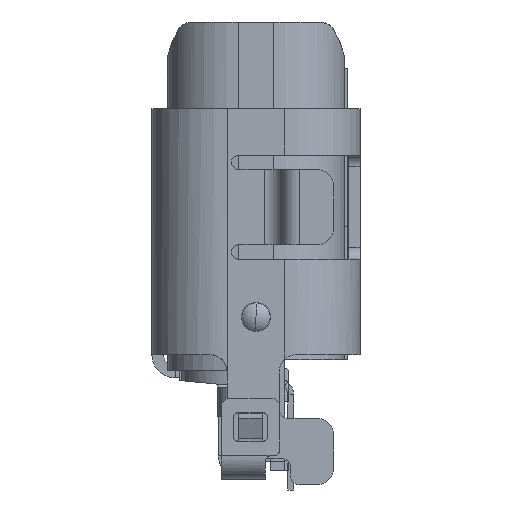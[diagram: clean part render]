
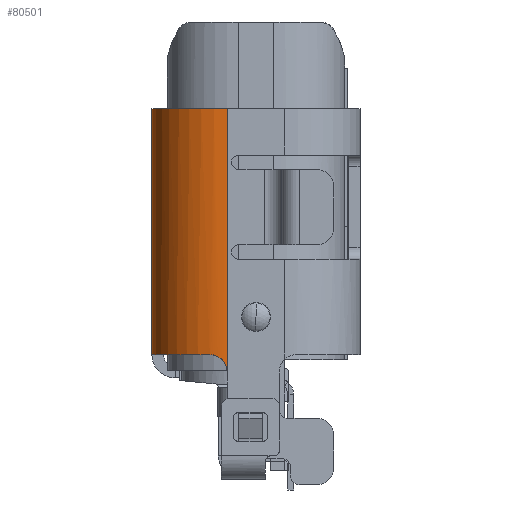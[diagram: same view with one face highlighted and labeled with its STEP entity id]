
A CAD part, left-side view. The second image highlights one B-rep face of the part: STEP entity #80501.
In plain terms, the highlighted cylindrical face has radius 1.3 mm (diameter 2.6 mm), a partial arc.
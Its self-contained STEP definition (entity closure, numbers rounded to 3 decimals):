
#2627 = AXIS2_PLACEMENT_3D ( 'NONE', #13620, #5932, #48980 ) ;
#5932 = DIRECTION ( 'NONE',  ( 0., 0., 1. ) ) ;
#13620 = CARTESIAN_POINT ( 'NONE',  ( -3.35, 0.5, -8.25 ) ) ;
#15548 = ORIENTED_EDGE ( 'NONE', *, *, #98056, .F. ) ;
#16864 = LINE ( 'NONE', #116474, #19434 ) ;
#17221 = CARTESIAN_POINT ( 'NONE',  ( -4.65, 0.5, -4. ) ) ;
#18201 = FACE_OUTER_BOUND ( 'NONE', #74409, .T. ) ;
#18887 = CARTESIAN_POINT ( 'NONE',  ( -4.615, 0.8, -8.25 ) ) ;
#19216 = EDGE_CURVE ( 'NONE', #42712, #53247, #108586, .T. ) ;
#19434 = VECTOR ( 'NONE', #70466, 1000. ) ;
#21456 = CIRCLE ( 'NONE', #2627, 1.3 ) ;
#25782 = VERTEX_POINT ( 'NONE', #72010 ) ;
#26510 = CARTESIAN_POINT ( 'NONE',  ( -3.35, 0.5, 0. ) ) ;
#27643 = DIRECTION ( 'NONE',  ( 1., 0., 0. ) ) ;
#27749 = CARTESIAN_POINT ( 'NONE',  ( -4.647, 0.585, -8.34 ) ) ;
#34300 = CARTESIAN_POINT ( 'NONE',  ( -4.648, 0.568, -8.359 ) ) ;
#37388 = EDGE_CURVE ( 'NONE', #42712, #25782, #97907, .T. ) ;
#41563 = VECTOR ( 'NONE', #61916, 1000. ) ;
#42145 = ORIENTED_EDGE ( 'NONE', *, *, #19216, .T. ) ;
#42712 = VERTEX_POINT ( 'NONE', #17221 ) ;
#47170 = CARTESIAN_POINT ( 'NONE',  ( -4.647, 0.582, -8.343 ) ) ;
#47554 = EDGE_CURVE ( 'NONE', #25782, #96600, #70382, .T. ) ;
#48980 = DIRECTION ( 'NONE',  ( 0., 1., 0. ) ) ;
#50466 = CARTESIAN_POINT ( 'NONE',  ( -3.35, 0.5, -4. ) ) ;
#51926 = CARTESIAN_POINT ( 'NONE',  ( -4.649, 0.554, -8.377 ) ) ;
#53247 = VERTEX_POINT ( 'NONE', #63076 ) ;
#54110 = DIRECTION ( 'NONE',  ( 0., 0., 1. ) ) ;
#54803 = CARTESIAN_POINT ( 'NONE',  ( -4.648, 0.579, -8.347 ) ) ;
#54805 = CARTESIAN_POINT ( 'NONE',  ( -4.65, 0.5, -8.25 ) ) ;
#60755 = CARTESIAN_POINT ( 'NONE',  ( -4.65, 0.5, -8.492 ) ) ;
#61916 = DIRECTION ( 'NONE',  ( 0., 0., -1. ) ) ;
#63076 = CARTESIAN_POINT ( 'NONE',  ( -3.35, 1.8, -4. ) ) ;
#64856 = VERTEX_POINT ( 'NONE', #93370 ) ;
#65228 = CARTESIAN_POINT ( 'NONE',  ( -4.615, 0.8, -8.25 ) ) ;
#66823 = ORIENTED_EDGE ( 'NONE', *, *, #37388, .F. ) ;
#67570 = ORIENTED_EDGE ( 'NONE', *, *, #113409, .T. ) ;
#70190 = CARTESIAN_POINT ( 'NONE',  ( -4.648, 0.573, -8.354 ) ) ;
#70382 = B_SPLINE_CURVE_WITH_KNOTS ( 'NONE', 3,
 ( #106162, #60755, #113862, #96745, #51926, #34300, #70190, #54803, #47170, #27749, #81907, #74228, #100809, #81331, #18887 ),
 .UNSPECIFIED., .F., .F.,
 ( 4, 2, 2, 2, 1, 2, 2, 4 ),
 ( 0., 0.25, 0.375, 0.438, 0.469, 0.484, 0.5, 1. ),
 .UNSPECIFIED. ) ;
#70466 = DIRECTION ( 'NONE',  ( 0., 0., 1. ) ) ;
#72010 = CARTESIAN_POINT ( 'NONE',  ( -4.65, 0.5, -8.55 ) ) ;
#72707 = AXIS2_PLACEMENT_3D ( 'NONE', #50466, #86400, #106439 ) ;
#74228 = CARTESIAN_POINT ( 'NONE',  ( -4.647, 0.587, -8.338 ) ) ;
#74409 = EDGE_LOOP ( 'NONE', ( #42145, #15548, #67570, #112177, #66823 ) ) ;
#80501 = ADVANCED_FACE ( 'NONE', ( #18201 ), #114938, .T. ) ;
#81331 = CARTESIAN_POINT ( 'NONE',  ( -4.632, 0.727, -8.25 ) ) ;
#81907 = CARTESIAN_POINT ( 'NONE',  ( -4.647, 0.587, -8.338 ) ) ;
#86400 = DIRECTION ( 'NONE',  ( 0., 0., -1. ) ) ;
#93370 = CARTESIAN_POINT ( 'NONE',  ( -3.35, 1.8, -8.25 ) ) ;
#96600 = VERTEX_POINT ( 'NONE', #65228 ) ;
#96745 = CARTESIAN_POINT ( 'NONE',  ( -4.649, 0.545, -8.391 ) ) ;
#97907 = LINE ( 'NONE', #54805, #41563 ) ;
#98056 = EDGE_CURVE ( 'NONE', #64856, #53247, #16864, .T. ) ;
#100809 = CARTESIAN_POINT ( 'NONE',  ( -4.643, 0.648, -8.278 ) ) ;
#103231 = AXIS2_PLACEMENT_3D ( 'NONE', #26510, #54110, #27643 ) ;
#106162 = CARTESIAN_POINT ( 'NONE',  ( -4.65, 0.5, -8.55 ) ) ;
#106439 = DIRECTION ( 'NONE',  ( -1., 0., 0. ) ) ;
#108586 = CIRCLE ( 'NONE', #72707, 1.3 ) ;
#112177 = ORIENTED_EDGE ( 'NONE', *, *, #47554, .F. ) ;
#113409 = EDGE_CURVE ( 'NONE', #64856, #96600, #21456, .T. ) ;
#113862 = CARTESIAN_POINT ( 'NONE',  ( -4.65, 0.517, -8.444 ) ) ;
#114938 = CYLINDRICAL_SURFACE ( 'NONE', #103231, 1.3 ) ;
#116474 = CARTESIAN_POINT ( 'NONE',  ( -3.35, 1.8, -8.25 ) ) ;
